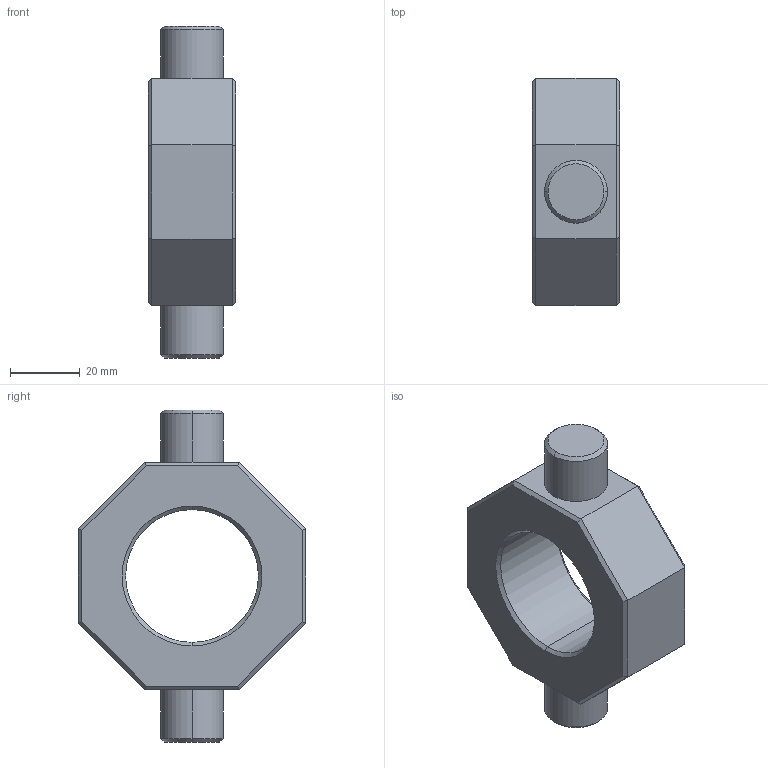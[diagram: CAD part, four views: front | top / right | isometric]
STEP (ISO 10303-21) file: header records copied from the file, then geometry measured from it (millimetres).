
FILE_DESCRIPTION (( 'STEP AP214' ), '1' );
FILE_NAME ('LB-KA-38.STEP', '2025-04-08T06:48:44', ( '' ), ( '' ), 'SwSTEP 2.0', 'SolidWorks 2023', '' );
FILE_SCHEMA (( 'AUTOMOTIVE_DESIGN' ));
Length unit declared in the file: millimetre
Products named in the file (1): LB-KA-38
Bounding box: 25 x 65 x 95 mm (x, y, z)
Volume: 64320.2 mm3; surface area: 15931.6 mm2
Topology: 1 solids, 1 shells, 78 faces, 174 edges, 94 vertices
Faces by surface type: cone 32, plane 28, cylinder 18
Entity records: 2053 total; most frequent: DIRECTION 376, CARTESIAN_POINT 335, ORIENTED_EDGE 324, EDGE_CURVE 162, AXIS2_PLACEMENT_3D 135, VECTOR 106, LINE 106, VERTEX_POINT 94
